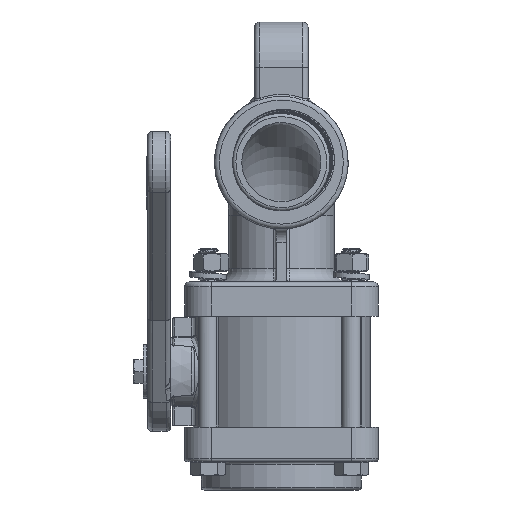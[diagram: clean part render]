
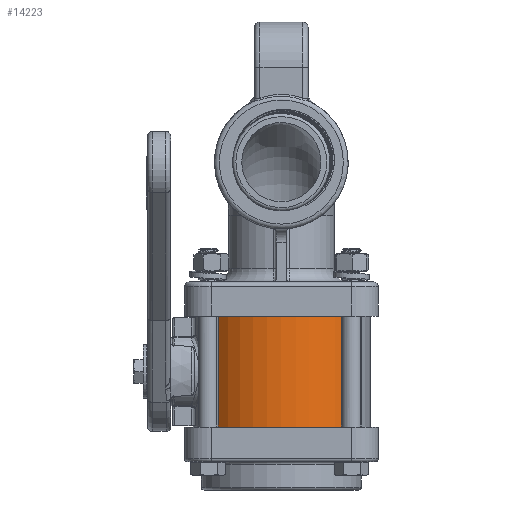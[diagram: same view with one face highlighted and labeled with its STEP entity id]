
A CAD part, front view. The second image highlights one B-rep face of the part: STEP entity #14223.
In plain terms, the highlighted cylindrical face has radius 42.164 mm (diameter 84.328 mm), a partial arc.
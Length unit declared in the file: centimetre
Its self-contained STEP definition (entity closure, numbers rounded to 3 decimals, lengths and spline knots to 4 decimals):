
#3156=VECTOR('',#16104,1.);
#3169=VECTOR('',#16134,1.);
#3921=LINE('',#18850,#3156);
#3934=LINE('',#19518,#3169);
#4687=VERTEX_POINT('',#18844);
#4690=VERTEX_POINT('',#18849);
#4717=VERTEX_POINT('',#19512);
#4720=VERTEX_POINT('',#19517);
#5963=CIRCLE('',#14954,4.2164);
#5964=CIRCLE('',#14955,4.2164);
#6467=EDGE_CURVE('',#4690,#4687,#3921,.T.);
#6502=EDGE_CURVE('',#4720,#4717,#3934,.T.);
#6595=EDGE_CURVE('',#4720,#4687,#5964,.T.);
#6611=EDGE_CURVE('',#4690,#4717,#5963,.T.);
#8704=ORIENTED_EDGE('',*,*,#6467,.F.);
#8705=ORIENTED_EDGE('',*,*,#6611,.T.);
#8706=ORIENTED_EDGE('',*,*,#6502,.F.);
#8707=ORIENTED_EDGE('',*,*,#6595,.T.);
#12412=EDGE_LOOP('',(#8704,#8705,#8706,#8707));
#13325=FACE_BOUND('',#12412,.T.);
#14223=ADVANCED_FACE('',(#13325),#96263,.T.);
#14953=AXIS2_PLACEMENT_3D('',#19000,#16110,#16111);
#14954=AXIS2_PLACEMENT_3D('',#19001,#16112,#16113);
#14955=AXIS2_PLACEMENT_3D('',#19029,#16114,#16115);
#16104=DIRECTION('',(0.,0.,-1.));
#16110=DIRECTION('',(0.,0.,1.));
#16111=DIRECTION('',(4.216,0.,0.));
#16112=DIRECTION('',(0.,0.,-1.));
#16113=DIRECTION('',(4.216,0.,0.));
#16114=DIRECTION('',(0.,0.,1.));
#16115=DIRECTION('',(4.216,0.,0.));
#16134=DIRECTION('',(0.,0.,1.));
#18844=CARTESIAN_POINT('',(-2.9172,-3.0443,0.));
#18849=CARTESIAN_POINT('',(-2.9172,-3.0443,5.2832));
#18850=CARTESIAN_POINT('',(-2.9172,-3.0443,0.));
#19000=CARTESIAN_POINT('',(0.,0.,0.));
#19001=CARTESIAN_POINT('',(0.,0.,5.2832));
#19029=CARTESIAN_POINT('',(0.,0.,0.));
#19512=CARTESIAN_POINT('',(-2.9172,3.0443,5.2832));
#19517=CARTESIAN_POINT('',(-2.9172,3.0443,0.));
#19518=CARTESIAN_POINT('',(-2.9172,3.0443,0.));
#96263=CYLINDRICAL_SURFACE('',#14953,4.2164);
